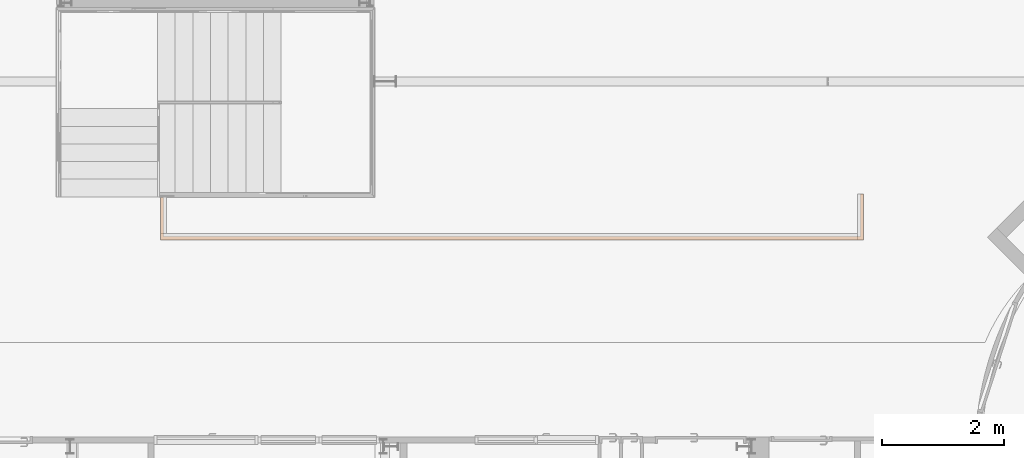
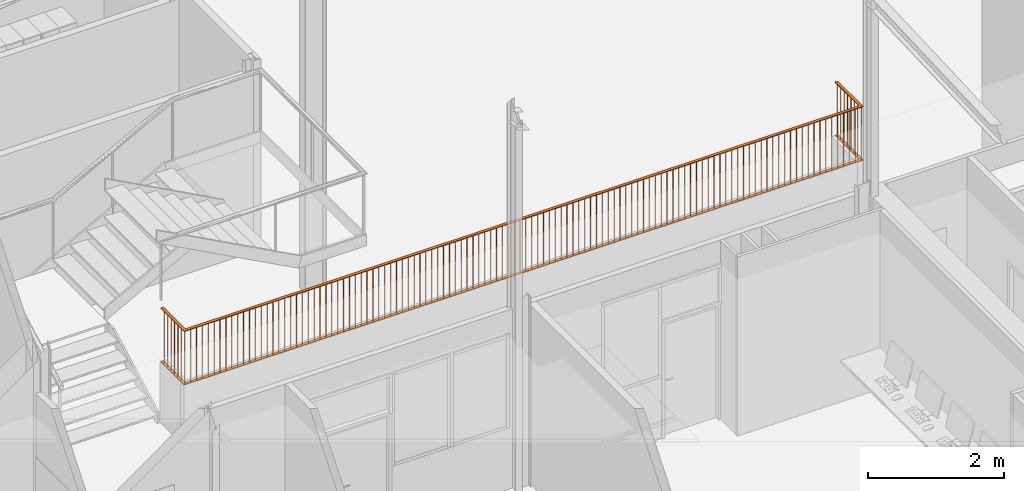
# One storey, part 130 of 137: 1 proxy.
"""IFC2X3 building model written with IfcOpenShell, lengths in centimetres."""

from ifc_helpers import new_model, entity, si_unit, converted_unit, derived_unit, direction, frame, frame_2d, origin, origin_2d_with_axis, place, context, subcontext, project, spatial, polyline, circle, outline, extrude, source, transform, mapped, type_object, type_shapes, element, save


model = new_model("IFC2X3")

# Units and contexts
model_context = context("Model", 3, precision=0.001, world=origin(), true_north=direction((6.12303176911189e-17, 1.0)))
body_context = subcontext(model_context, "Body", "Model", "MODEL_VIEW")
ifc_project = project(units=[si_unit("LENGTHUNIT", "METRE", prefix="CENTI"), si_unit("AREAUNIT", "SQUARE_METRE"), si_unit("VOLUMEUNIT", "CUBIC_METRE"), converted_unit("PLANEANGLEUNIT", "DEGREE", entity("IfcRatioMeasure", 0.0174532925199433), si_unit("PLANEANGLEUNIT", "RADIAN"), dimensions=[0, 0, 0, 0, 0, 0, 0]), si_unit("MASSUNIT", "GRAM", prefix="KILO"), si_unit("TIMEUNIT", "SECOND"), si_unit("FREQUENCYUNIT", "HERTZ"), si_unit("THERMODYNAMICTEMPERATUREUNIT", "DEGREE_CELSIUS"), derived_unit("THERMALTRANSMITTANCEUNIT", [(si_unit("MASSUNIT", "GRAM", prefix="KILO"), 1), (si_unit("THERMODYNAMICTEMPERATUREUNIT", "KELVIN"), -1), (si_unit("TIMEUNIT", "SECOND"), -3)]), derived_unit("VOLUMETRICFLOWRATEUNIT", [(si_unit("LENGTHUNIT", "METRE"), 3), (si_unit("TIMEUNIT", "SECOND"), -1)]), si_unit("ELECTRICCURRENTUNIT", "AMPERE"), si_unit("ELECTRICVOLTAGEUNIT", "VOLT"), si_unit("POWERUNIT", "WATT"), si_unit("FORCEUNIT", "NEWTON", prefix="KILO"), si_unit("ILLUMINANCEUNIT", "LUX"), si_unit("LUMINOUSFLUXUNIT", "LUMEN"), si_unit("LUMINOUSINTENSITYUNIT", "CANDELA"), derived_unit("USERDEFINED", [(si_unit("MASSUNIT", "GRAM", prefix="KILO"), -1), (si_unit("LENGTHUNIT", "METRE"), -2), (si_unit("TIMEUNIT", "SECOND"), 3), (si_unit("LUMINOUSFLUXUNIT", "LUMEN"), 1)]), derived_unit("LINEARVELOCITYUNIT", [(si_unit("LENGTHUNIT", "METRE"), 1), (si_unit("TIMEUNIT", "SECOND"), -1)]), si_unit("PRESSUREUNIT", "PASCAL"), derived_unit("USERDEFINED", [(si_unit("LENGTHUNIT", "METRE"), -2), (si_unit("MASSUNIT", "GRAM", prefix="KILO"), 1), (si_unit("TIMEUNIT", "SECOND"), -2)])], contexts=[model_context])

# Site, building, storey, space
site_placement = place(None, frame((8.62739174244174, -249.285249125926, 0.0)))
site = spatial("IfcSite", under=ifc_project, at=site_placement, Name="Default", CompositionType="ELEMENT")
building_placement = place(site_placement, origin())
building = spatial("IfcBuilding", under=site, at=building_placement, CompositionType="ELEMENT")
storey_placement = place(building_placement, origin())
storey = spatial("IfcBuildingStorey", under=building, at=storey_placement, Name="RDC", CompositionType="ELEMENT", Elevation=-8.82465566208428e-11)
space_placement = place(storey_placement, origin())
space = spatial("IfcSpace", under=storey, at=space_placement, Name="089", CompositionType="ELEMENT", InteriorOrExteriorSpace="INTERNAL")

# Proxy
building_element_proxy_type = type_object("IfcBuildingElementProxyType", Name="parevue-barreau", PredefinedType="NOTDEFINED")
shared_shape = source(origin(), body_context, "Body", "SweptSolid", [
    extrude(outline(polyline([(-31.9003023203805, -577.499999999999), (37.4667674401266, -577.499999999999), (37.4667674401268, 577.499999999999), (-38.0332325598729, 577.499999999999), (-38.0332325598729, 572.499999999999), (32.4667674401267, 572.499999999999), (32.4667674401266, -572.499999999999), (-31.9003023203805, -572.499999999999), (-31.9003023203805, -577.499999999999)])), frame((575.017656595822, -32.4667674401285, -7.0), z_axis=(0.0, 0.0, 1.0), x_axis=(0.0, 1.0, 0.0)), (0.0, 0.0, 1.0), 1.00000000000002),
    extrude(circle(Radius=0.5, at=origin_2d_with_axis()), frame((0.0, -67.4999999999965, -6.0)), (0.0, 0.0, 1.0), 94.9260268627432),
    extrude(circle(Radius=0.5, at=origin_2d_with_axis()), frame((0.0, -57.4999999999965, -6.0)), (0.0, 0.0, 1.0), 94.9260268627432),
    extrude(circle(Radius=0.5, at=origin_2d_with_axis()), frame((0.0, -47.4999999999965, -6.0)), (0.0, 0.0, 1.0), 94.9260268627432),
    extrude(circle(Radius=0.5, at=origin_2d_with_axis()), frame((0.0, -37.4999999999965, -6.0)), (0.0, 0.0, 1.0), 94.9260268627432),
    extrude(circle(Radius=0.5, at=origin_2d_with_axis()), frame((0.0, -27.4999999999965, -6.0)), (0.0, 0.0, 1.0), 94.9260268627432),
    extrude(circle(Radius=0.5, at=origin_2d_with_axis()), frame((0.0, -17.4999999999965, -6.0)), (0.0, 0.0, 1.0), 94.9260268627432),
    extrude(circle(Radius=0.5, at=frame_2d((0.0, -8.45989944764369e-16), x_axis=(1.0, 0.0))), frame((0.0, -7.49999999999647, -6.0)), (0.0, 0.0, 1.0), 94.9260268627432),
    extrude(outline(polyline([(-31.9003023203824, -577.496755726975), (37.4667674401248, -577.496755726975), (37.4667674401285, 577.496755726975), (-38.033232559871, 577.496755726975), (-38.033232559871, 572.503244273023), (32.4667674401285, 572.503244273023), (32.4667674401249, -572.503244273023), (-31.9003023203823, -572.503244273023), (-31.9003023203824, -577.496755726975)])), frame((575.014412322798, -32.4667674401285, 88.9260268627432), z_axis=(0.0, 0.0, 1.0), x_axis=(0.0, 1.0, 0.0)), (0.0, 0.0, 1.0), 1.07397313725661),
    extrude(circle(Radius=0.5, at=origin_2d_with_axis()), frame((1150.0, -57.5000000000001, -6.0)), (0.0, 0.0, 1.0), 94.9260268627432),
    extrude(circle(Radius=0.5, at=origin_2d_with_axis()), frame((1150.0, -47.5000000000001, -6.0)), (0.0, 0.0, 1.0), 94.9260268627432),
    extrude(circle(Radius=0.5, at=origin_2d_with_axis()), frame((1150.0, -37.5000000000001, -6.0)), (0.0, 0.0, 1.0), 94.9260268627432),
    extrude(circle(Radius=0.5, at=origin_2d_with_axis()), frame((1150.0, -27.5000000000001, -6.0)), (0.0, 0.0, 1.0), 94.9260268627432),
    extrude(circle(Radius=0.5, at=origin_2d_with_axis()), frame((1150.0, -17.5000000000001, -6.0)), (0.0, 0.0, 1.0), 94.9260268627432),
    extrude(circle(Radius=0.5, at=frame_2d((0.0, -8.45989944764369e-16), x_axis=(1.0, 0.0))), frame((1150.0, -7.50000000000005, -6.0)), (0.0, 0.0, 1.0), 94.9260268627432),
    extrude(circle(Radius=0.5, at=frame_2d((0.0, -8.45989944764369e-16), x_axis=(1.0, 0.0))), frame((1150.0, 2.49999999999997, -6.0)), (0.0, 0.0, 1.0), 94.9260268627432),
    extrude(circle(Radius=0.5, at=frame_2d((0.0, -8.45989944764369e-16), x_axis=(1.0, 0.0))), frame((1140.0, 2.49999999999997, -6.0)), (0.0, 0.0, 1.0), 94.9260268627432),
    extrude(circle(Radius=0.5, at=frame_2d((0.0, -8.45989944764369e-16), x_axis=(1.0, 0.0))), frame((1130.0, 2.49999999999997, -6.0)), (0.0, 0.0, 1.0), 94.9260268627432),
    extrude(circle(Radius=0.5, at=frame_2d((0.0, -8.45989944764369e-16), x_axis=(1.0, 0.0))), frame((1120.0, 2.49999999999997, -6.0)), (0.0, 0.0, 1.0), 94.9260268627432),
    extrude(circle(Radius=0.5, at=frame_2d((0.0, -8.45989944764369e-16), x_axis=(1.0, 0.0))), frame((1110.0, 2.49999999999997, -6.0)), (0.0, 0.0, 1.0), 94.9260268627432),
    extrude(circle(Radius=0.5, at=frame_2d((0.0, -8.45989944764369e-16), x_axis=(1.0, 0.0))), frame((1100.0, 2.49999999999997, -6.0)), (0.0, 0.0, 1.0), 94.9260268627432),
    extrude(circle(Radius=0.5, at=frame_2d((0.0, -8.45989944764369e-16), x_axis=(1.0, 0.0))), frame((1090.0, 2.49999999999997, -6.0)), (0.0, 0.0, 1.0), 94.9260268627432),
    extrude(circle(Radius=0.5, at=frame_2d((0.0, -8.45989944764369e-16), x_axis=(1.0, 0.0))), frame((1080.0, 2.49999999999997, -6.0)), (0.0, 0.0, 1.0), 94.9260268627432),
    extrude(circle(Radius=0.5, at=frame_2d((0.0, -8.45989944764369e-16), x_axis=(1.0, 0.0))), frame((1070.0, 2.49999999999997, -6.0)), (0.0, 0.0, 1.0), 94.9260268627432),
    extrude(circle(Radius=0.5, at=frame_2d((0.0, -8.45989944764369e-16), x_axis=(1.0, 0.0))), frame((1060.0, 2.49999999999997, -6.0)), (0.0, 0.0, 1.0), 94.9260268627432),
    extrude(circle(Radius=0.5, at=frame_2d((0.0, -8.45989944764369e-16), x_axis=(1.0, 0.0))), frame((1050.0, 2.49999999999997, -6.0)), (0.0, 0.0, 1.0), 94.9260268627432),
    extrude(circle(Radius=0.5, at=frame_2d((0.0, -8.45989944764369e-16), x_axis=(1.0, 0.0))), frame((1040.0, 2.49999999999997, -6.0)), (0.0, 0.0, 1.0), 94.9260268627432),
    extrude(circle(Radius=0.5, at=frame_2d((0.0, -8.45989944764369e-16), x_axis=(1.0, 0.0))), frame((1030.0, 2.49999999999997, -6.0)), (0.0, 0.0, 1.0), 94.9260268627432),
    extrude(circle(Radius=0.5, at=frame_2d((0.0, -8.45989944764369e-16), x_axis=(1.0, 0.0))), frame((1020.0, 2.49999999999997, -6.0)), (0.0, 0.0, 1.0), 94.9260268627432),
    extrude(circle(Radius=0.5, at=frame_2d((0.0, -8.45989944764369e-16), x_axis=(1.0, 0.0))), frame((1010.0, 2.49999999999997, -6.0)), (0.0, 0.0, 1.0), 94.9260268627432),
    extrude(circle(Radius=0.5, at=frame_2d((0.0, -8.45989944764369e-16), x_axis=(1.0, 0.0))), frame((1000.0, 2.49999999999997, -6.0)), (0.0, 0.0, 1.0), 94.9260268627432),
    extrude(circle(Radius=0.5, at=frame_2d((0.0, -8.45989944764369e-16), x_axis=(1.0, 0.0))), frame((990.0, 2.49999999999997, -6.0)), (0.0, 0.0, 1.0), 94.9260268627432),
    extrude(circle(Radius=0.5, at=frame_2d((0.0, -8.45989944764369e-16), x_axis=(1.0, 0.0))), frame((980.0, 2.49999999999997, -6.0)), (0.0, 0.0, 1.0), 94.9260268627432),
    extrude(circle(Radius=0.5, at=frame_2d((0.0, -8.45989944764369e-16), x_axis=(1.0, 0.0))), frame((970.0, 2.49999999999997, -6.0)), (0.0, 0.0, 1.0), 94.9260268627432),
    extrude(circle(Radius=0.5, at=frame_2d((0.0, -8.45989944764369e-16), x_axis=(1.0, 0.0))), frame((960.0, 2.49999999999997, -6.0)), (0.0, 0.0, 1.0), 94.9260268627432),
    extrude(circle(Radius=0.5, at=frame_2d((0.0, -8.45989944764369e-16), x_axis=(1.0, 0.0))), frame((950.0, 2.49999999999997, -6.0)), (0.0, 0.0, 1.0), 94.9260268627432),
    extrude(circle(Radius=0.5, at=frame_2d((0.0, -8.45989944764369e-16), x_axis=(1.0, 0.0))), frame((940.0, 2.49999999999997, -6.0)), (0.0, 0.0, 1.0), 94.9260268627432),
    extrude(circle(Radius=0.5, at=frame_2d((0.0, -8.45989944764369e-16), x_axis=(1.0, 0.0))), frame((930.0, 2.49999999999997, -6.0)), (0.0, 0.0, 1.0), 94.9260268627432),
    extrude(circle(Radius=0.5, at=frame_2d((0.0, -8.45989944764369e-16), x_axis=(1.0, 0.0))), frame((920.0, 2.49999999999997, -6.0)), (0.0, 0.0, 1.0), 94.9260268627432),
    extrude(circle(Radius=0.5, at=frame_2d((0.0, -8.45989944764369e-16), x_axis=(1.0, 0.0))), frame((910.0, 2.49999999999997, -6.0)), (0.0, 0.0, 1.0), 94.9260268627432),
    extrude(circle(Radius=0.5, at=frame_2d((0.0, -8.45989944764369e-16), x_axis=(1.0, 0.0))), frame((900.0, 2.49999999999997, -6.0)), (0.0, 0.0, 1.0), 94.9260268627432),
    extrude(circle(Radius=0.5, at=frame_2d((0.0, -8.45989944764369e-16), x_axis=(1.0, 0.0))), frame((890.0, 2.49999999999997, -6.0)), (0.0, 0.0, 1.0), 94.9260268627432),
    extrude(circle(Radius=0.5, at=frame_2d((0.0, -8.45989944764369e-16), x_axis=(1.0, 0.0))), frame((880.0, 2.49999999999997, -6.0)), (0.0, 0.0, 1.0), 94.9260268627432),
    extrude(circle(Radius=0.5, at=frame_2d((0.0, -8.45989944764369e-16), x_axis=(1.0, 0.0))), frame((870.0, 2.49999999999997, -6.0)), (0.0, 0.0, 1.0), 94.9260268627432),
    extrude(circle(Radius=0.5, at=frame_2d((0.0, -8.45989944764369e-16), x_axis=(1.0, 0.0))), frame((860.0, 2.49999999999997, -6.0)), (0.0, 0.0, 1.0), 94.9260268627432),
    extrude(circle(Radius=0.5, at=frame_2d((0.0, -8.45989944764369e-16), x_axis=(1.0, 0.0))), frame((850.0, 2.49999999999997, -6.0)), (0.0, 0.0, 1.0), 94.9260268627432),
    extrude(circle(Radius=0.5, at=frame_2d((0.0, -8.45989944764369e-16), x_axis=(1.0, 0.0))), frame((840.0, 2.49999999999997, -6.0)), (0.0, 0.0, 1.0), 94.9260268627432),
    extrude(circle(Radius=0.5, at=frame_2d((0.0, -8.45989944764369e-16), x_axis=(1.0, 0.0))), frame((830.0, 2.49999999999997, -6.0)), (0.0, 0.0, 1.0), 94.9260268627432),
    extrude(circle(Radius=0.5, at=frame_2d((0.0, -8.45989944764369e-16), x_axis=(1.0, 0.0))), frame((820.0, 2.49999999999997, -6.0)), (0.0, 0.0, 1.0), 94.9260268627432),
    extrude(circle(Radius=0.5, at=frame_2d((0.0, -8.45989944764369e-16), x_axis=(1.0, 0.0))), frame((810.0, 2.49999999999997, -6.0)), (0.0, 0.0, 1.0), 94.9260268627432),
    extrude(circle(Radius=0.5, at=frame_2d((0.0, -8.45989944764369e-16), x_axis=(1.0, 0.0))), frame((800.0, 2.49999999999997, -6.0)), (0.0, 0.0, 1.0), 94.9260268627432),
    extrude(circle(Radius=0.5, at=frame_2d((0.0, -8.45989944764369e-16), x_axis=(1.0, 0.0))), frame((790.0, 2.49999999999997, -6.0)), (0.0, 0.0, 1.0), 94.9260268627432),
    extrude(circle(Radius=0.5, at=frame_2d((0.0, -8.45989944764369e-16), x_axis=(1.0, 0.0))), frame((780.0, 2.49999999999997, -6.0)), (0.0, 0.0, 1.0), 94.9260268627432),
    extrude(circle(Radius=0.5, at=frame_2d((0.0, -8.45989944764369e-16), x_axis=(1.0, 0.0))), frame((770.0, 2.49999999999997, -6.0)), (0.0, 0.0, 1.0), 94.9260268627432),
    extrude(circle(Radius=0.5, at=frame_2d((0.0, -8.45989944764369e-16), x_axis=(1.0, 0.0))), frame((760.0, 2.49999999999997, -6.0)), (0.0, 0.0, 1.0), 94.9260268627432),
    extrude(circle(Radius=0.5, at=frame_2d((0.0, -8.45989944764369e-16), x_axis=(1.0, 0.0))), frame((750.0, 2.49999999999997, -6.0)), (0.0, 0.0, 1.0), 94.9260268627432),
    extrude(circle(Radius=0.5, at=frame_2d((0.0, -8.45989944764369e-16), x_axis=(1.0, 0.0))), frame((740.0, 2.49999999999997, -6.0)), (0.0, 0.0, 1.0), 94.9260268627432),
    extrude(circle(Radius=0.5, at=frame_2d((0.0, -8.45989944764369e-16), x_axis=(1.0, 0.0))), frame((730.0, 2.49999999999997, -6.0)), (0.0, 0.0, 1.0), 94.9260268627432),
    extrude(circle(Radius=0.5, at=frame_2d((0.0, -8.45989944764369e-16), x_axis=(1.0, 0.0))), frame((720.0, 2.49999999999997, -6.0)), (0.0, 0.0, 1.0), 94.9260268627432),
    extrude(circle(Radius=0.5, at=frame_2d((0.0, -8.45989944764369e-16), x_axis=(1.0, 0.0))), frame((710.0, 2.49999999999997, -6.0)), (0.0, 0.0, 1.0), 94.9260268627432),
    extrude(circle(Radius=0.5, at=frame_2d((0.0, -8.45989944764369e-16), x_axis=(1.0, 0.0))), frame((700.0, 2.49999999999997, -6.0)), (0.0, 0.0, 1.0), 94.9260268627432),
    extrude(circle(Radius=0.5, at=frame_2d((0.0, -8.45989944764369e-16), x_axis=(1.0, 0.0))), frame((690.0, 2.49999999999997, -6.0)), (0.0, 0.0, 1.0), 94.9260268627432),
    extrude(circle(Radius=0.5, at=frame_2d((0.0, -8.45989944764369e-16), x_axis=(1.0, 0.0))), frame((680.0, 2.49999999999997, -6.0)), (0.0, 0.0, 1.0), 94.9260268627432),
    extrude(circle(Radius=0.5, at=frame_2d((0.0, -8.45989944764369e-16), x_axis=(1.0, 0.0))), frame((670.0, 2.49999999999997, -6.0)), (0.0, 0.0, 1.0), 94.9260268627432),
    extrude(circle(Radius=0.5, at=frame_2d((0.0, -8.45989944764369e-16), x_axis=(1.0, 0.0))), frame((660.0, 2.49999999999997, -6.0)), (0.0, 0.0, 1.0), 94.9260268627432),
    extrude(circle(Radius=0.5, at=frame_2d((0.0, -8.45989944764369e-16), x_axis=(1.0, 0.0))), frame((650.0, 2.49999999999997, -6.0)), (0.0, 0.0, 1.0), 94.9260268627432),
    extrude(circle(Radius=0.5, at=frame_2d((0.0, -8.45989944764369e-16), x_axis=(1.0, 0.0))), frame((640.0, 2.49999999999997, -6.0)), (0.0, 0.0, 1.0), 94.9260268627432),
    extrude(circle(Radius=0.5, at=frame_2d((0.0, -8.45989944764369e-16), x_axis=(1.0, 0.0))), frame((630.0, 2.49999999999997, -6.0)), (0.0, 0.0, 1.0), 94.9260268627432),
    extrude(circle(Radius=0.5, at=frame_2d((0.0, -8.45989944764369e-16), x_axis=(1.0, 0.0))), frame((620.0, 2.49999999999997, -6.0)), (0.0, 0.0, 1.0), 94.9260268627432),
    extrude(circle(Radius=0.5, at=frame_2d((0.0, -8.45989944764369e-16), x_axis=(1.0, 0.0))), frame((610.0, 2.49999999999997, -6.0)), (0.0, 0.0, 1.0), 94.9260268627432),
    extrude(circle(Radius=0.5, at=frame_2d((0.0, -8.45989944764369e-16), x_axis=(1.0, 0.0))), frame((600.0, 2.49999999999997, -6.0)), (0.0, 0.0, 1.0), 94.9260268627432),
    extrude(circle(Radius=0.5, at=frame_2d((0.0, -8.45989944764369e-16), x_axis=(1.0, 0.0))), frame((590.0, 2.49999999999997, -6.0)), (0.0, 0.0, 1.0), 94.9260268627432),
    extrude(circle(Radius=0.5, at=frame_2d((0.0, -8.45989944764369e-16), x_axis=(1.0, 0.0))), frame((580.0, 2.49999999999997, -6.0)), (0.0, 0.0, 1.0), 94.9260268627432),
    extrude(circle(Radius=0.5, at=frame_2d((0.0, -8.45989944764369e-16), x_axis=(1.0, 0.0))), frame((570.0, 2.49999999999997, -6.0)), (0.0, 0.0, 1.0), 94.9260268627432),
    extrude(circle(Radius=0.5, at=frame_2d((0.0, -8.45989944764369e-16), x_axis=(1.0, 0.0))), frame((560.0, 2.49999999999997, -6.0)), (0.0, 0.0, 1.0), 94.9260268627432),
    extrude(circle(Radius=0.5, at=frame_2d((0.0, -8.45989944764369e-16), x_axis=(1.0, 0.0))), frame((550.0, 2.49999999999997, -6.0)), (0.0, 0.0, 1.0), 94.9260268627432),
    extrude(circle(Radius=0.5, at=frame_2d((0.0, -8.45989944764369e-16), x_axis=(1.0, 0.0))), frame((540.0, 2.49999999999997, -6.0)), (0.0, 0.0, 1.0), 94.9260268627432),
    extrude(circle(Radius=0.5, at=frame_2d((0.0, -8.45989944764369e-16), x_axis=(1.0, 0.0))), frame((530.0, 2.49999999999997, -6.0)), (0.0, 0.0, 1.0), 94.9260268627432),
    extrude(circle(Radius=0.5, at=frame_2d((0.0, -8.45989944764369e-16), x_axis=(1.0, 0.0))), frame((520.0, 2.49999999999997, -6.0)), (0.0, 0.0, 1.0), 94.9260268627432),
    extrude(circle(Radius=0.5, at=frame_2d((0.0, -8.45989944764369e-16), x_axis=(1.0, 0.0))), frame((510.0, 2.49999999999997, -6.0)), (0.0, 0.0, 1.0), 94.9260268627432),
    extrude(circle(Radius=0.5, at=frame_2d((0.0, -8.45989944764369e-16), x_axis=(1.0, 0.0))), frame((500.0, 2.49999999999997, -6.0)), (0.0, 0.0, 1.0), 94.9260268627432),
    extrude(circle(Radius=0.5, at=frame_2d((0.0, -8.45989944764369e-16), x_axis=(1.0, 0.0))), frame((490.0, 2.49999999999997, -6.0)), (0.0, 0.0, 1.0), 94.9260268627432),
    extrude(circle(Radius=0.5, at=frame_2d((0.0, -8.45989944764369e-16), x_axis=(1.0, 0.0))), frame((480.0, 2.49999999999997, -6.0)), (0.0, 0.0, 1.0), 94.9260268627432),
    extrude(circle(Radius=0.5, at=frame_2d((0.0, -8.45989944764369e-16), x_axis=(1.0, 0.0))), frame((470.0, 2.49999999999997, -6.0)), (0.0, 0.0, 1.0), 94.9260268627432),
    extrude(circle(Radius=0.5, at=frame_2d((0.0, -8.45989944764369e-16), x_axis=(1.0, 0.0))), frame((460.0, 2.49999999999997, -6.0)), (0.0, 0.0, 1.0), 94.9260268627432),
    extrude(circle(Radius=0.5, at=frame_2d((0.0, -8.45989944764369e-16), x_axis=(1.0, 0.0))), frame((450.0, 2.49999999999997, -6.0)), (0.0, 0.0, 1.0), 94.9260268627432),
    extrude(circle(Radius=0.5, at=frame_2d((0.0, -8.45989944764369e-16), x_axis=(1.0, 0.0))), frame((440.0, 2.49999999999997, -6.0)), (0.0, 0.0, 1.0), 94.9260268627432),
    extrude(circle(Radius=0.5, at=frame_2d((0.0, -8.45989944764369e-16), x_axis=(1.0, 0.0))), frame((430.0, 2.49999999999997, -6.0)), (0.0, 0.0, 1.0), 94.9260268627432),
    extrude(circle(Radius=0.5, at=frame_2d((0.0, -8.45989944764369e-16), x_axis=(1.0, 0.0))), frame((420.0, 2.49999999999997, -6.0)), (0.0, 0.0, 1.0), 94.9260268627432),
    extrude(circle(Radius=0.5, at=frame_2d((0.0, -8.45989944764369e-16), x_axis=(1.0, 0.0))), frame((410.0, 2.49999999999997, -6.0)), (0.0, 0.0, 1.0), 94.9260268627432),
    extrude(circle(Radius=0.5, at=frame_2d((0.0, -8.45989944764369e-16), x_axis=(1.0, 0.0))), frame((400.0, 2.49999999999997, -6.0)), (0.0, 0.0, 1.0), 94.9260268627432),
    extrude(circle(Radius=0.5, at=frame_2d((0.0, -8.45989944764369e-16), x_axis=(1.0, 0.0))), frame((390.0, 2.49999999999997, -6.0)), (0.0, 0.0, 1.0), 94.9260268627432),
    extrude(circle(Radius=0.5, at=frame_2d((0.0, -8.45989944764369e-16), x_axis=(1.0, 0.0))), frame((380.0, 2.49999999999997, -6.0)), (0.0, 0.0, 1.0), 94.9260268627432),
    extrude(circle(Radius=0.5, at=frame_2d((0.0, -8.45989944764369e-16), x_axis=(1.0, 0.0))), frame((370.0, 2.49999999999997, -6.0)), (0.0, 0.0, 1.0), 94.9260268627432),
    extrude(circle(Radius=0.5, at=frame_2d((0.0, -8.45989944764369e-16), x_axis=(1.0, 0.0))), frame((360.0, 2.49999999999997, -6.0)), (0.0, 0.0, 1.0), 94.9260268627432),
    extrude(circle(Radius=0.5, at=frame_2d((0.0, -8.45989944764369e-16), x_axis=(1.0, 0.0))), frame((350.0, 2.49999999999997, -6.0)), (0.0, 0.0, 1.0), 94.9260268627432),
    extrude(circle(Radius=0.5, at=frame_2d((0.0, -8.45989944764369e-16), x_axis=(1.0, 0.0))), frame((340.0, 2.49999999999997, -6.0)), (0.0, 0.0, 1.0), 94.9260268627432),
    extrude(circle(Radius=0.5, at=frame_2d((0.0, -8.45989944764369e-16), x_axis=(1.0, 0.0))), frame((330.0, 2.49999999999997, -6.0)), (0.0, 0.0, 1.0), 94.9260268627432),
    extrude(circle(Radius=0.5, at=frame_2d((0.0, -8.45989944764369e-16), x_axis=(1.0, 0.0))), frame((320.0, 2.49999999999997, -6.0)), (0.0, 0.0, 1.0), 94.9260268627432),
    extrude(circle(Radius=0.5, at=frame_2d((0.0, -8.45989944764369e-16), x_axis=(1.0, 0.0))), frame((310.0, 2.49999999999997, -6.0)), (0.0, 0.0, 1.0), 94.9260268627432),
    extrude(circle(Radius=0.5, at=frame_2d((0.0, -8.45989944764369e-16), x_axis=(1.0, 0.0))), frame((300.0, 2.49999999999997, -6.0)), (0.0, 0.0, 1.0), 94.9260268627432),
    extrude(circle(Radius=0.5, at=frame_2d((0.0, -8.45989944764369e-16), x_axis=(1.0, 0.0))), frame((290.0, 2.49999999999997, -6.0)), (0.0, 0.0, 1.0), 94.9260268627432),
    extrude(circle(Radius=0.5, at=frame_2d((0.0, -8.45989944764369e-16), x_axis=(1.0, 0.0))), frame((280.0, 2.49999999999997, -6.0)), (0.0, 0.0, 1.0), 94.9260268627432),
    extrude(circle(Radius=0.5, at=frame_2d((0.0, -8.45989944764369e-16), x_axis=(1.0, 0.0))), frame((270.0, 2.49999999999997, -6.0)), (0.0, 0.0, 1.0), 94.9260268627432),
    extrude(circle(Radius=0.5, at=frame_2d((0.0, -8.45989944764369e-16), x_axis=(1.0, 0.0))), frame((260.0, 2.49999999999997, -6.0)), (0.0, 0.0, 1.0), 94.9260268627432),
    extrude(circle(Radius=0.5, at=frame_2d((0.0, -8.45989944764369e-16), x_axis=(1.0, 0.0))), frame((250.0, 2.49999999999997, -6.0)), (0.0, 0.0, 1.0), 94.9260268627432),
    extrude(circle(Radius=0.5, at=frame_2d((0.0, -8.45989944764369e-16), x_axis=(1.0, 0.0))), frame((240.0, 2.49999999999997, -6.0)), (0.0, 0.0, 1.0), 94.9260268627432),
    extrude(circle(Radius=0.5, at=frame_2d((0.0, -8.45989944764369e-16), x_axis=(1.0, 0.0))), frame((230.0, 2.49999999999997, -6.0)), (0.0, 0.0, 1.0), 94.9260268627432),
    extrude(circle(Radius=0.5, at=frame_2d((0.0, -8.45989944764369e-16), x_axis=(1.0, 0.0))), frame((220.0, 2.49999999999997, -6.0)), (0.0, 0.0, 1.0), 94.9260268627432),
    extrude(circle(Radius=0.5, at=frame_2d((0.0, -8.45989944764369e-16), x_axis=(1.0, 0.0))), frame((210.0, 2.49999999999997, -6.0)), (0.0, 0.0, 1.0), 94.9260268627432),
    extrude(circle(Radius=0.5, at=frame_2d((0.0, -8.45989944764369e-16), x_axis=(1.0, 0.0))), frame((200.0, 2.49999999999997, -6.0)), (0.0, 0.0, 1.0), 94.9260268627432),
    extrude(circle(Radius=0.5, at=frame_2d((0.0, -8.45989944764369e-16), x_axis=(1.0, 0.0))), frame((190.0, 2.49999999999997, -6.0)), (0.0, 0.0, 1.0), 94.9260268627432),
    extrude(circle(Radius=0.5, at=frame_2d((0.0, -8.45989944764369e-16), x_axis=(1.0, 0.0))), frame((180.0, 2.49999999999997, -6.0)), (0.0, 0.0, 1.0), 94.9260268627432),
    extrude(circle(Radius=0.5, at=frame_2d((0.0, -8.45989944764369e-16), x_axis=(1.0, 0.0))), frame((170.0, 2.49999999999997, -6.0)), (0.0, 0.0, 1.0), 94.9260268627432),
    extrude(circle(Radius=0.5, at=frame_2d((0.0, -8.45989944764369e-16), x_axis=(1.0, 0.0))), frame((160.0, 2.49999999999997, -6.0)), (0.0, 0.0, 1.0), 94.9260268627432),
    extrude(circle(Radius=0.5, at=frame_2d((0.0, -8.45989944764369e-16), x_axis=(1.0, 0.0))), frame((150.0, 2.49999999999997, -6.0)), (0.0, 0.0, 1.0), 94.9260268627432),
    extrude(circle(Radius=0.5, at=frame_2d((0.0, -8.45989944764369e-16), x_axis=(1.0, 0.0))), frame((140.0, 2.49999999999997, -6.0)), (0.0, 0.0, 1.0), 94.9260268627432),
    extrude(circle(Radius=0.5, at=frame_2d((0.0, -8.45989944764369e-16), x_axis=(1.0, 0.0))), frame((130.0, 2.49999999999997, -6.0)), (0.0, 0.0, 1.0), 94.9260268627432),
    extrude(circle(Radius=0.5, at=frame_2d((0.0, -8.45989944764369e-16), x_axis=(1.0, 0.0))), frame((120.0, 2.49999999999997, -6.0)), (0.0, 0.0, 1.0), 94.9260268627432),
    extrude(circle(Radius=0.5, at=frame_2d((0.0, -8.45989944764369e-16), x_axis=(1.0, 0.0))), frame((110.0, 2.49999999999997, -6.0)), (0.0, 0.0, 1.0), 94.9260268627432),
    extrude(circle(Radius=0.5, at=frame_2d((0.0, -8.45989944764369e-16), x_axis=(1.0, 0.0))), frame((100.0, 2.49999999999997, -6.0)), (0.0, 0.0, 1.0), 94.9260268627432),
    extrude(circle(Radius=0.5, at=frame_2d((0.0, -8.45989944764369e-16), x_axis=(1.0, 0.0))), frame((0.0, 2.49999999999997, -6.0)), (0.0, 0.0, 1.0), 94.9260268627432),
    extrude(circle(Radius=0.5, at=frame_2d((0.0, -8.45989944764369e-16), x_axis=(1.0, 0.0))), frame((90.0, 2.49999999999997, -6.0)), (0.0, 0.0, 1.0), 94.9260268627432),
    extrude(circle(Radius=0.5, at=frame_2d((0.0, -8.45989944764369e-16), x_axis=(1.0, 0.0))), frame((80.0, 2.49999999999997, -6.0)), (0.0, 0.0, 1.0), 94.9260268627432),
    extrude(circle(Radius=0.5, at=frame_2d((0.0, -8.45989944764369e-16), x_axis=(1.0, 0.0))), frame((70.0, 2.49999999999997, -6.0)), (0.0, 0.0, 1.0), 94.9260268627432),
    extrude(circle(Radius=0.5, at=frame_2d((0.0, -8.45989944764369e-16), x_axis=(1.0, 0.0))), frame((60.0, 2.49999999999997, -6.0)), (0.0, 0.0, 1.0), 94.9260268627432),
    extrude(circle(Radius=0.5, at=frame_2d((0.0, -8.45989944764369e-16), x_axis=(1.0, 0.0))), frame((50.0, 2.49999999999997, -6.0)), (0.0, 0.0, 1.0), 94.9260268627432),
    extrude(circle(Radius=0.5, at=frame_2d((0.0, -8.45989944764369e-16), x_axis=(1.0, 0.0))), frame((40.0, 2.49999999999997, -6.0)), (0.0, 0.0, 1.0), 94.9260268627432),
    extrude(circle(Radius=0.5, at=frame_2d((0.0, -8.45989944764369e-16), x_axis=(1.0, 0.0))), frame((30.0, 2.49999999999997, -6.0)), (0.0, 0.0, 1.0), 94.9260268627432),
    extrude(circle(Radius=0.5, at=frame_2d((0.0, -8.45989944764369e-16), x_axis=(1.0, 0.0))), frame((20.0, 2.49999999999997, -6.0)), (0.0, 0.0, 1.0), 94.9260268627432),
    extrude(circle(Radius=0.5, at=frame_2d((0.0, -8.45989944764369e-16), x_axis=(1.0, 0.0))), frame((10.0, 2.49999999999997, -6.0)), (0.0, 0.0, 1.0), 94.9260268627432),
])
type_shapes(building_element_proxy_type, [shared_shape])
proxy_placement = place(space_placement, frame((2347.4207752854, 1106.98020806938, 117.0), z_axis=(0.0, 0.0, 1.0), x_axis=(-1.0, 0.0, 0.0)))
element("IfcBuildingElementProxy", 1, at=proxy_placement, inside=space, type_object=building_element_proxy_type, Name="parevue-barreau:parevue-barreau", ObjectType="parevue-barreau", context=body_context, shape_type="MappedRepresentation", body=[
    mapped(shared_shape, transform((0.0, 0.0, 0.0), scale=1.0)),
])

save(model, "model.ifc")
